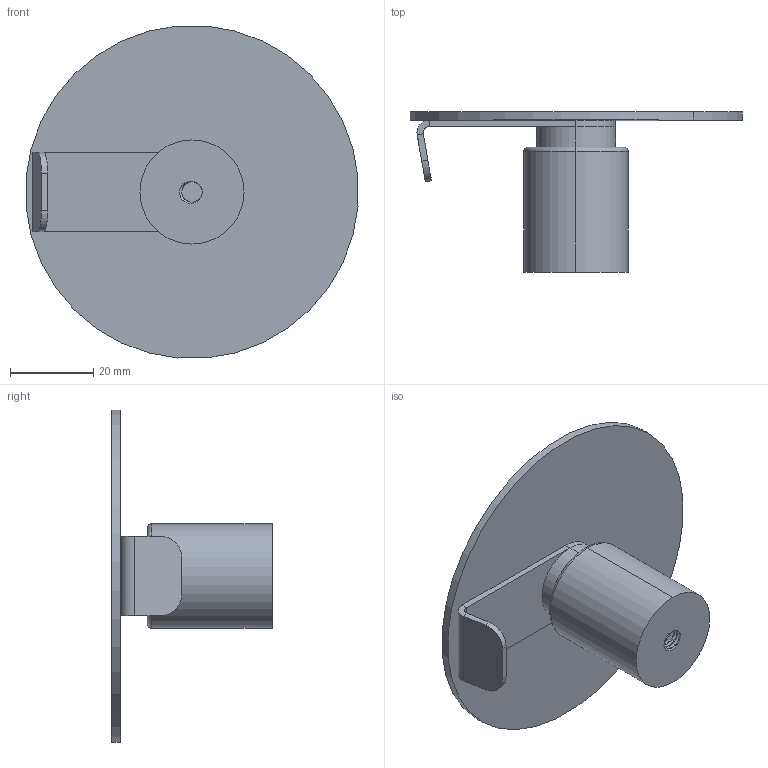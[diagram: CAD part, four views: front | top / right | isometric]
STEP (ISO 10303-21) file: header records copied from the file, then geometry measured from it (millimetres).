
FILE_DESCRIPTION (( 'STEP AP214' ), '1' );
FILE_NAME ('Wieszak na rêczniki z frontem okr¹g³ym OYMO small.STEP', '2025-12-11T06:18:05', ( '' ), ( '' ), 'SwSTEP 2.0', 'SolidWorks 2021', '' );
FILE_SCHEMA (( 'AUTOMOTIVE_DESIGN' ));
Length unit declared in the file: millimetre
Products named in the file (6): 02-015-0045-W-00-01; 02-018-0080-W-01-02; Wieszak na rêczniki z frontem okr¹g³ym OYMO small; 02-018-0080-W-01-00; 02-018-0080-W-01-01; 02-018-0080-W-02-00
Assembly tree (5 placements, depth 3):
  Wieszak na rêczniki z frontem okr¹g³ym OYMO small
    02-015-0045-W-00-01
    02-018-0080-W-01-00
      02-018-0080-W-01-01
      02-018-0080-W-01-02
    02-018-0080-W-02-00
Bounding box: 79.71 x 38.5 x 79.71 mm (x, y, z)
Volume: 27200 mm3; surface area: 17767.5 mm2
Topology: 4 solids, 4 shells, 137 faces, 366 edges, 238 vertices
Faces by surface type: cylinder 106, plane 23, bspline 6, torus 2
Entity records: 11107 total; most frequent: CARTESIAN_POINT 8031, ORIENTED_EDGE 732, DIRECTION 489, EDGE_CURVE 366, VERTEX_POINT 238, AXIS2_PLACEMENT_3D 179, EDGE_LOOP 142, FACE_OUTER_BOUND 137
